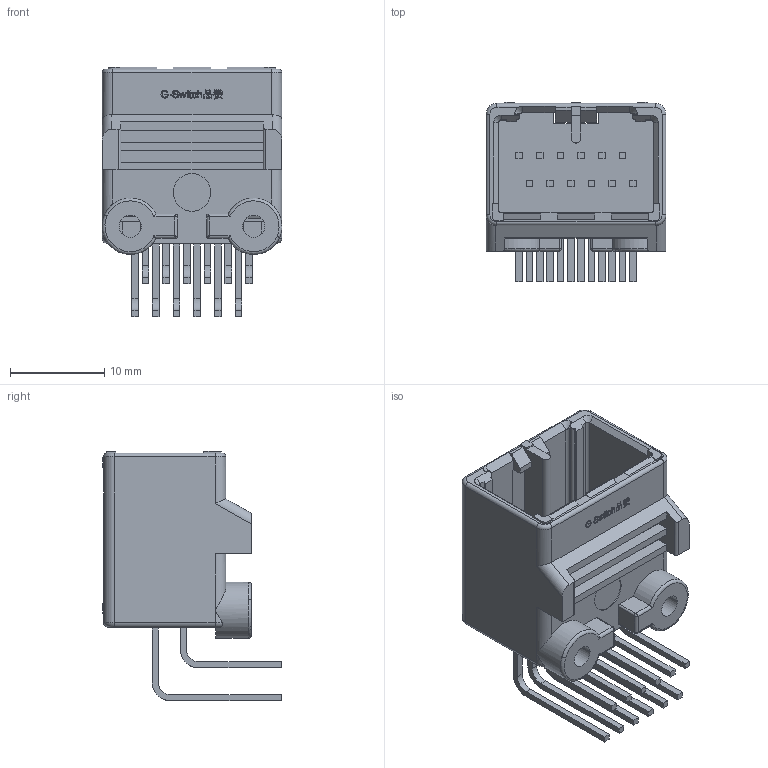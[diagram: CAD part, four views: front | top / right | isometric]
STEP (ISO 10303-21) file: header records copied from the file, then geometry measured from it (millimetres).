
FILE_DESCRIPTION (( 'STEP AP203' ), '1' );
FILE_NAME ('2201wr-2x06.stp', '2024-03-15T02:17:14', ( '' ), ( '' ), 'SwSTEP 2.0', 'SolidWorks 2023', '' );
FILE_SCHEMA (( 'CONFIG_CONTROL_DESIGN' ));
Length unit declared in the file: millimetre
Products named in the file (1): 2201wr-2x06
Bounding box: 19.1 x 19 x 26.52 mm (x, y, z)
Volume: 2200.7 mm3; surface area: 3991.4 mm2
Topology: 1 solids, 1 shells, 830 faces, 2281 edges, 1509 vertices
Faces by surface type: plane 632, cylinder 102, bspline 78, torus 14, cone 4
Entity records: 30827 total; most frequent: CARTESIAN_POINT 10347, ORIENTED_EDGE 4562, DIRECTION 3620, EDGE_CURVE 2281, LINE 1784, VECTOR 1784, VERTEX_POINT 1509, AXIS2_PLACEMENT_3D 918
